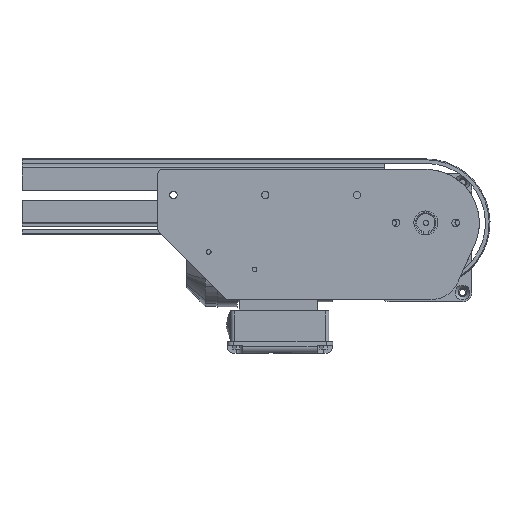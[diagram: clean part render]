
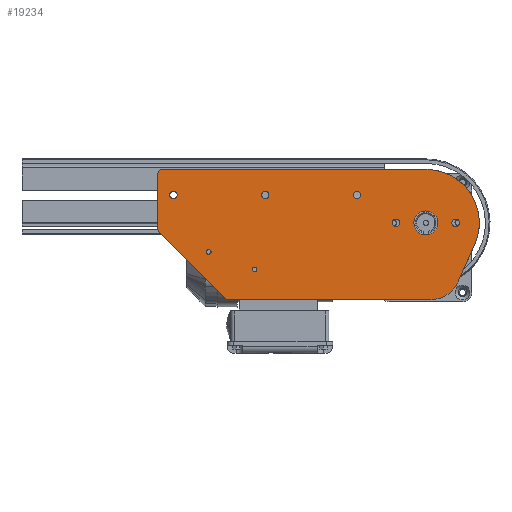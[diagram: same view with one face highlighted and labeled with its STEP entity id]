
A CAD part, left-side view. The second image highlights one B-rep face of the part: STEP entity #19234.
In plain terms, the highlighted planar face has unit normal (-1, 0, 0).
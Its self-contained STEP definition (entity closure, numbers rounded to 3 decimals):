
#18742=CARTESIAN_POINT('',(-393.441,-704.828,18.456));
#18743=VERTEX_POINT('',#18742);
#18744=CARTESIAN_POINT('',(-393.441,-717.828,18.456));
#18745=DIRECTION('',(1.0,0.0,0.0));
#18746=DIRECTION('',(0.0,-1.0,0.0));
#18747=AXIS2_PLACEMENT_3D('',#18744,#18745,#18746);
#18748=CIRCLE('',#18747,13.0);
#18749=EDGE_CURVE('',#18743,#18743,#18748,.T.);
#18762=CARTESIAN_POINT('',(-393.441,-746.228,18.456));
#18763=VERTEX_POINT('',#18762);
#18764=CARTESIAN_POINT('',(-393.441,-750.328,18.456));
#18765=DIRECTION('',(1.0,0.0,0.0));
#18766=DIRECTION('',(0.0,-1.0,0.0));
#18767=AXIS2_PLACEMENT_3D('',#18764,#18765,#18766);
#18768=CIRCLE('',#18767,4.1);
#18769=EDGE_CURVE('',#18763,#18763,#18768,.T.);
#18782=CARTESIAN_POINT('',(-393.441,-681.228,18.456));
#18783=VERTEX_POINT('',#18782);
#18784=CARTESIAN_POINT('',(-393.441,-685.328,18.456));
#18785=DIRECTION('',(1.0,0.0,0.0));
#18786=DIRECTION('',(0.0,-1.0,0.0));
#18787=AXIS2_PLACEMENT_3D('',#18784,#18785,#18786);
#18788=CIRCLE('',#18787,4.1);
#18789=EDGE_CURVE('',#18783,#18783,#18788,.T.);
#18802=CARTESIAN_POINT('',(-393.441,-638.828,48.756));
#18803=VERTEX_POINT('',#18802);
#18804=CARTESIAN_POINT('',(-393.441,-642.828,48.756));
#18805=DIRECTION('',(1.0,0.0,0.0));
#18806=DIRECTION('',(0.0,-1.0,0.0));
#18807=AXIS2_PLACEMENT_3D('',#18804,#18805,#18806);
#18808=CIRCLE('',#18807,4.0);
#18809=EDGE_CURVE('',#18803,#18803,#18808,.T.);
#18830=CARTESIAN_POINT('',(-393.441,-538.828,48.756));
#18831=VERTEX_POINT('',#18830);
#18832=CARTESIAN_POINT('',(-393.441,-542.828,48.756));
#18833=DIRECTION('',(1.0,0.0,0.0));
#18834=DIRECTION('',(0.0,-1.0,0.0));
#18835=AXIS2_PLACEMENT_3D('',#18832,#18833,#18834);
#18836=CIRCLE('',#18835,4.0);
#18837=EDGE_CURVE('',#18831,#18831,#18836,.T.);
#18858=CARTESIAN_POINT('',(-393.441,-438.828,48.756));
#18859=VERTEX_POINT('',#18858);
#18860=CARTESIAN_POINT('',(-393.441,-442.828,48.756));
#18861=DIRECTION('',(1.0,0.0,0.0));
#18862=DIRECTION('',(0.0,-1.0,0.0));
#18863=AXIS2_PLACEMENT_3D('',#18860,#18861,#18862);
#18864=CIRCLE('',#18863,4.0);
#18865=EDGE_CURVE('',#18859,#18859,#18864,.T.);
#18878=CARTESIAN_POINT('',(-393.441,-528.828,-32.244));
#18879=VERTEX_POINT('',#18878);
#18880=CARTESIAN_POINT('',(-393.441,-531.328,-32.244));
#18881=DIRECTION('',(1.0,0.0,0.0));
#18882=DIRECTION('',(0.0,-1.0,0.0));
#18883=AXIS2_PLACEMENT_3D('',#18880,#18881,#18882);
#18884=CIRCLE('',#18883,2.5);
#18885=EDGE_CURVE('',#18879,#18879,#18884,.T.);
#18898=CARTESIAN_POINT('',(-393.441,-478.828,-13.244));
#18899=VERTEX_POINT('',#18898);
#18900=CARTESIAN_POINT('',(-393.441,-481.328,-13.244));
#18901=DIRECTION('',(1.0,0.0,0.0));
#18902=DIRECTION('',(0.0,-1.0,0.0));
#18903=AXIS2_PLACEMENT_3D('',#18900,#18901,#18902);
#18904=CIRCLE('',#18903,2.5);
#18905=EDGE_CURVE('',#18899,#18899,#18904,.T.);
#18916=CARTESIAN_POINT('',(-393.441,-723.274,-65.244));
#18917=VERTEX_POINT('',#18916);
#18924=CARTESIAN_POINT('',(-393.441,-502.812,-65.244));
#18925=VERTEX_POINT('',#18924);
#18926=CARTESIAN_POINT('',(-393.441,-723.274,-65.244));
#18927=DIRECTION('',(0.0,1.0,0.0));
#18928=VECTOR('',#18927,220.461);
#18929=LINE('',#18926,#18928);
#18930=EDGE_CURVE('',#18917,#18925,#18929,.T.);
#18947=CARTESIAN_POINT('',(-393.441,-752.964,-45.963));
#18948=VERTEX_POINT('',#18947);
#18955=CARTESIAN_POINT('',(-393.441,-723.274,-32.744));
#18956=DIRECTION('',(1.0,0.,0.));
#18957=DIRECTION('',(0.,-0.914,-0.407));
#18958=AXIS2_PLACEMENT_3D('',#18955,#18956,#18957);
#18959=CIRCLE('',#18958,32.5);
#18960=EDGE_CURVE('',#18948,#18917,#18959,.T.);
#18972=CARTESIAN_POINT('',(-393.441,-771.087,-5.257));
#18973=VERTEX_POINT('',#18972);
#18980=CARTESIAN_POINT('',(-393.441,-771.087,-5.257));
#18981=DIRECTION('',(0.0,0.407,-0.914));
#18982=VECTOR('',#18981,44.558);
#18983=LINE('',#18980,#18982);
#18984=EDGE_CURVE('',#18973,#18948,#18983,.T.);
#18996=CARTESIAN_POINT('',(-393.441,-717.828,76.756));
#18997=VERTEX_POINT('',#18996);
#19004=CARTESIAN_POINT('',(-393.441,-717.828,18.456));
#19005=DIRECTION('',(1.0,0.0,0.0));
#19006=DIRECTION('',(0.0,0.0,1.0));
#19007=AXIS2_PLACEMENT_3D('',#19004,#19005,#19006);
#19008=CIRCLE('',#19007,58.3);
#19009=EDGE_CURVE('',#18997,#18973,#19008,.T.);
#19029=CARTESIAN_POINT('',(-393.441,-430.828,76.756));
#19030=VERTEX_POINT('',#19029);
#19037=CARTESIAN_POINT('',(-393.441,-430.828,76.756));
#19038=DIRECTION('',(0.0,-1.0,0.0));
#19039=VECTOR('',#19038,287.);
#19040=LINE('',#19037,#19039);
#19041=EDGE_CURVE('',#19030,#18997,#19040,.T.);
#19061=CARTESIAN_POINT('',(-393.441,-425.828,71.756));
#19062=VERTEX_POINT('',#19061);
#19069=CARTESIAN_POINT('',(-393.441,-430.828,71.756));
#19070=DIRECTION('',(1.0,0.0,0.0));
#19071=DIRECTION('',(0.0,1.0,0.0));
#19072=AXIS2_PLACEMENT_3D('',#19069,#19070,#19071);
#19073=CIRCLE('',#19072,5.0);
#19074=EDGE_CURVE('',#19062,#19030,#19073,.T.);
#19108=CARTESIAN_POINT('',(-393.441,-425.828,11.966));
#19109=VERTEX_POINT('',#19108);
#19116=CARTESIAN_POINT('',(-393.441,-425.828,11.966));
#19117=DIRECTION('',(0.0,0.0,1.0));
#19118=VECTOR('',#19117,59.79);
#19119=LINE('',#19116,#19118);
#19120=EDGE_CURVE('',#19109,#19062,#19119,.T.);
#19132=CARTESIAN_POINT('',(-393.441,-427.287,8.436));
#19133=VERTEX_POINT('',#19132);
#19140=CARTESIAN_POINT('',(-393.441,-430.828,11.966));
#19141=DIRECTION('',(1.0,0.,0.));
#19142=DIRECTION('',(0.,0.708,-0.706));
#19143=AXIS2_PLACEMENT_3D('',#19140,#19141,#19142);
#19144=CIRCLE('',#19143,5.);
#19145=EDGE_CURVE('',#19133,#19109,#19144,.T.);
#19157=CARTESIAN_POINT('',(-393.441,-499.271,-63.774));
#19158=VERTEX_POINT('',#19157);
#19165=CARTESIAN_POINT('',(-393.441,-499.271,-63.774));
#19166=DIRECTION('',(0.0,0.706,0.708));
#19167=VECTOR('',#19166,101.961);
#19168=LINE('',#19165,#19167);
#19169=EDGE_CURVE('',#19158,#19133,#19168,.T.);
#19182=CARTESIAN_POINT('',(-393.441,-502.812,-60.244));
#19183=DIRECTION('',(1.0,0.0,0.0));
#19184=DIRECTION('',(0.0,0.0,-1.0));
#19185=AXIS2_PLACEMENT_3D('',#19182,#19183,#19184);
#19186=CIRCLE('',#19185,5.0);
#19187=EDGE_CURVE('',#18925,#19158,#19186,.T.);
#19193=CARTESIAN_POINT('',(-393.441,-599.394,10.777));
#19194=DIRECTION('',(1.0,0.0,0.0));
#19195=DIRECTION('',(0.0,1.0,0.0));
#19196=AXIS2_PLACEMENT_3D('',#19193,#19194,#19195);
#19197=PLANE('',#19196);
#19198=ORIENTED_EDGE('',*,*,#18930,.F.);
#19199=ORIENTED_EDGE('',*,*,#18960,.F.);
#19200=ORIENTED_EDGE('',*,*,#18984,.F.);
#19201=ORIENTED_EDGE('',*,*,#19009,.F.);
#19202=ORIENTED_EDGE('',*,*,#19041,.F.);
#19203=ORIENTED_EDGE('',*,*,#19074,.F.);
#19204=ORIENTED_EDGE('',*,*,#19120,.F.);
#19205=ORIENTED_EDGE('',*,*,#19145,.F.);
#19206=ORIENTED_EDGE('',*,*,#19169,.F.);
#19207=ORIENTED_EDGE('',*,*,#19187,.F.);
#19208=EDGE_LOOP('',(#19198,#19199,#19200,#19201,#19202,#19203,#19204,#19205,#19206,#19207));
#19209=FACE_OUTER_BOUND('',#19208,.T.);
#19210=ORIENTED_EDGE('',*,*,#18749,.T.);
#19211=EDGE_LOOP('',(#19210));
#19212=FACE_BOUND('',#19211,.T.);
#19213=ORIENTED_EDGE('',*,*,#18769,.T.);
#19214=EDGE_LOOP('',(#19213));
#19215=FACE_BOUND('',#19214,.T.);
#19216=ORIENTED_EDGE('',*,*,#18789,.T.);
#19217=EDGE_LOOP('',(#19216));
#19218=FACE_BOUND('',#19217,.T.);
#19219=ORIENTED_EDGE('',*,*,#18809,.T.);
#19220=EDGE_LOOP('',(#19219));
#19221=FACE_BOUND('',#19220,.T.);
#19222=ORIENTED_EDGE('',*,*,#18837,.T.);
#19223=EDGE_LOOP('',(#19222));
#19224=FACE_BOUND('',#19223,.T.);
#19225=ORIENTED_EDGE('',*,*,#18865,.T.);
#19226=EDGE_LOOP('',(#19225));
#19227=FACE_BOUND('',#19226,.T.);
#19228=ORIENTED_EDGE('',*,*,#18885,.T.);
#19229=EDGE_LOOP('',(#19228));
#19230=FACE_BOUND('',#19229,.T.);
#19231=ORIENTED_EDGE('',*,*,#18905,.T.);
#19232=EDGE_LOOP('',(#19231));
#19233=FACE_BOUND('',#19232,.T.);
#19234=ADVANCED_FACE('',(#19209,#19212,#19215,#19218,#19221,#19224,#19227,#19230,#19233),#19197,.F.);
